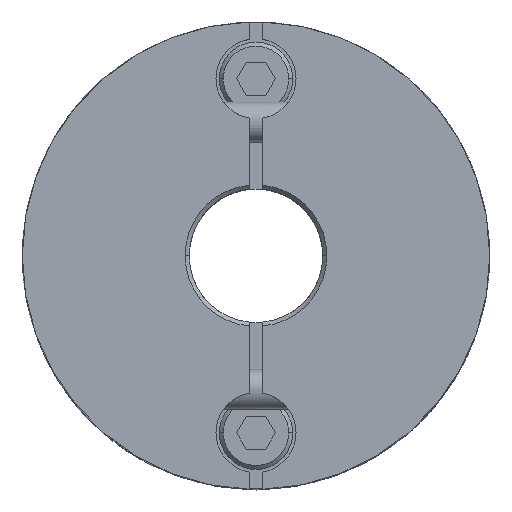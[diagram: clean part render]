
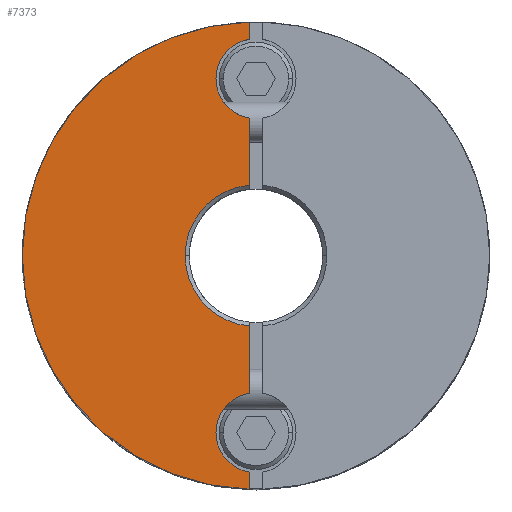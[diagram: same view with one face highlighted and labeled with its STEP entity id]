
A CAD part, top view. The second image highlights one B-rep face of the part: STEP entity #7373.
In plain terms, the highlighted planar face has unit normal (0, 0, 1).
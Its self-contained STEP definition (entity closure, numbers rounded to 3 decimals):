
#751=CARTESIAN_POINT('',(-5.3,0.,13.5));
#752=VERTEX_POINT('',#751);
#759=CARTESIAN_POINT('',(-0.5,-5.276,13.5));
#760=VERTEX_POINT('',#759);
#761=CARTESIAN_POINT('',(0.0,0.,13.5));
#762=DIRECTION('',(0.0,0.0,1.0));
#763=DIRECTION('',(1.0,0.0,0.0));
#764=AXIS2_PLACEMENT_3D('',#761,#762,#763);
#765=CIRCLE('',#764,5.3);
#766=EDGE_CURVE('',#752,#760,#765,.T.);
#831=CARTESIAN_POINT('',(-17.5,0.,13.5));
#832=VERTEX_POINT('',#831);
#916=CARTESIAN_POINT('',(-0.5,-17.493,13.5));
#917=VERTEX_POINT('',#916);
#924=CARTESIAN_POINT('',(0.0,0.,13.5));
#925=DIRECTION('',(0.0,0.0,-1.0));
#926=DIRECTION('',(-1.0,0.0,0.0));
#927=AXIS2_PLACEMENT_3D('',#924,#925,#926);
#928=CIRCLE('',#927,17.5);
#929=EDGE_CURVE('',#917,#832,#928,.T.);
#1353=CARTESIAN_POINT('',(-3.,-13.25,13.5));
#1354=VERTEX_POINT('',#1353);
#1363=CARTESIAN_POINT('',(-0.5,-16.208,13.5));
#1364=VERTEX_POINT('',#1363);
#1365=CARTESIAN_POINT('',(0.,-13.25,13.5));
#1366=DIRECTION('',(0.0,0.0,-1.0));
#1367=DIRECTION('',(-1.0,0.0,0.0));
#1368=AXIS2_PLACEMENT_3D('',#1365,#1366,#1367);
#1369=CIRCLE('',#1368,3.0);
#1370=EDGE_CURVE('',#1364,#1354,#1369,.T.);
#1585=CARTESIAN_POINT('',(-3.,13.25,13.5));
#1586=VERTEX_POINT('',#1585);
#1595=CARTESIAN_POINT('',(-0.5,10.292,13.5));
#1596=VERTEX_POINT('',#1595);
#1597=CARTESIAN_POINT('',(0.,13.25,13.5));
#1598=DIRECTION('',(0.0,0.0,-1.0));
#1599=DIRECTION('',(-1.0,0.0,0.0));
#1600=AXIS2_PLACEMENT_3D('',#1597,#1598,#1599);
#1601=CIRCLE('',#1600,3.0);
#1602=EDGE_CURVE('',#1596,#1586,#1601,.T.);
#6080=CARTESIAN_POINT('',(-0.5,16.208,13.5));
#6081=VERTEX_POINT('',#6080);
#6088=CARTESIAN_POINT('',(0.,13.25,13.5));
#6089=DIRECTION('',(0.0,0.0,-1.0));
#6090=DIRECTION('',(-1.0,0.0,0.0));
#6091=AXIS2_PLACEMENT_3D('',#6088,#6089,#6090);
#6092=CIRCLE('',#6091,3.0);
#6093=EDGE_CURVE('',#1586,#6081,#6092,.T.);
#6495=CARTESIAN_POINT('',(-0.5,-10.292,13.5));
#6496=VERTEX_POINT('',#6495);
#6503=CARTESIAN_POINT('',(0.,-13.25,13.5));
#6504=DIRECTION('',(0.0,0.0,-1.0));
#6505=DIRECTION('',(-1.0,0.0,0.0));
#6506=AXIS2_PLACEMENT_3D('',#6503,#6504,#6505);
#6507=CIRCLE('',#6506,3.0);
#6508=EDGE_CURVE('',#1354,#6496,#6507,.T.);
#6657=CARTESIAN_POINT('',(-0.5,5.276,13.5));
#6658=VERTEX_POINT('',#6657);
#6659=CARTESIAN_POINT('',(-0.5,5.276,13.5));
#6660=DIRECTION('',(0.0,1.0,0.0));
#6661=VECTOR('',#6660,5.016);
#6662=LINE('',#6659,#6661);
#6663=EDGE_CURVE('',#6658,#1596,#6662,.T.);
#6714=CARTESIAN_POINT('',(-0.5,-10.292,13.5));
#6715=DIRECTION('',(0.0,1.0,0.0));
#6716=VECTOR('',#6715,5.016);
#6717=LINE('',#6714,#6716);
#6718=EDGE_CURVE('',#6496,#760,#6717,.T.);
#7319=CARTESIAN_POINT('',(-0.5,-17.493,13.5));
#7320=DIRECTION('',(0.0,1.0,0.0));
#7321=VECTOR('',#7320,1.285);
#7322=LINE('',#7319,#7321);
#7323=EDGE_CURVE('',#917,#1364,#7322,.T.);
#7335=CARTESIAN_POINT('',(-1.591,0.,13.5));
#7336=DIRECTION('',(0.0,0.0,1.0));
#7337=DIRECTION('',(-1.0,0.0,0.0));
#7338=AXIS2_PLACEMENT_3D('',#7335,#7336,#7337);
#7339=PLANE('',#7338);
#7340=ORIENTED_EDGE('',*,*,#1370,.T.);
#7341=ORIENTED_EDGE('',*,*,#6508,.T.);
#7342=ORIENTED_EDGE('',*,*,#6718,.T.);
#7343=ORIENTED_EDGE('',*,*,#766,.F.);
#7344=CARTESIAN_POINT('',(0.0,0.,13.5));
#7345=DIRECTION('',(0.0,0.0,1.0));
#7346=DIRECTION('',(1.0,0.0,0.0));
#7347=AXIS2_PLACEMENT_3D('',#7344,#7345,#7346);
#7348=CIRCLE('',#7347,5.3);
#7349=EDGE_CURVE('',#6658,#752,#7348,.T.);
#7350=ORIENTED_EDGE('',*,*,#7349,.F.);
#7351=ORIENTED_EDGE('',*,*,#6663,.T.);
#7352=ORIENTED_EDGE('',*,*,#1602,.T.);
#7353=ORIENTED_EDGE('',*,*,#6093,.T.);
#7354=CARTESIAN_POINT('',(-0.5,17.493,13.5));
#7355=VERTEX_POINT('',#7354);
#7356=CARTESIAN_POINT('',(-0.5,16.208,13.5));
#7357=DIRECTION('',(0.0,1.0,0.0));
#7358=VECTOR('',#7357,1.285);
#7359=LINE('',#7356,#7358);
#7360=EDGE_CURVE('',#6081,#7355,#7359,.T.);
#7361=ORIENTED_EDGE('',*,*,#7360,.T.);
#7362=CARTESIAN_POINT('',(0.0,0.,13.5));
#7363=DIRECTION('',(0.0,0.0,-1.0));
#7364=DIRECTION('',(-1.0,0.0,0.0));
#7365=AXIS2_PLACEMENT_3D('',#7362,#7363,#7364);
#7366=CIRCLE('',#7365,17.5);
#7367=EDGE_CURVE('',#832,#7355,#7366,.T.);
#7368=ORIENTED_EDGE('',*,*,#7367,.F.);
#7369=ORIENTED_EDGE('',*,*,#929,.F.);
#7370=ORIENTED_EDGE('',*,*,#7323,.T.);
#7371=EDGE_LOOP('',(#7340,#7341,#7342,#7343,#7350,#7351,#7352,#7353,#7361,#7368,#7369,#7370));
#7372=FACE_OUTER_BOUND('',#7371,.T.);
#7373=ADVANCED_FACE('',(#7372),#7339,.T.);
